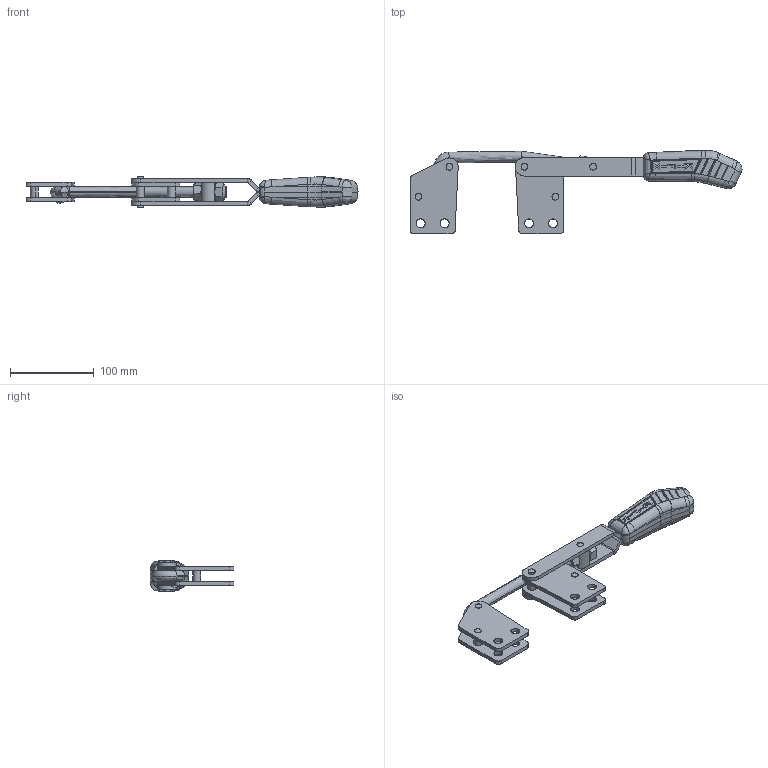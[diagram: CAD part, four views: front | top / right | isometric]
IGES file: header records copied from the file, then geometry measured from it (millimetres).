
Start section: SolidWorks IGES file using analytic representation for surfaces
Global section: file name: C:\Projetos\Grampos\KF-553\KF-553 R\KF-553 R.IGS; native system: SolidWorks 2013; preprocessor: SolidWorks 2013; author: Ricardo; date: 140821.155034; units: millimetre
Bounding box: 395.83 x 99.84 x 36.5 mm (x, y, z)
Surface area: 107016.7 mm2 (no closed solid volume)
Topology: 0 solids, 0 shells, 638 faces, 7504 edges, 7484 vertices
Faces by surface type: bspline 361, revolution 277
